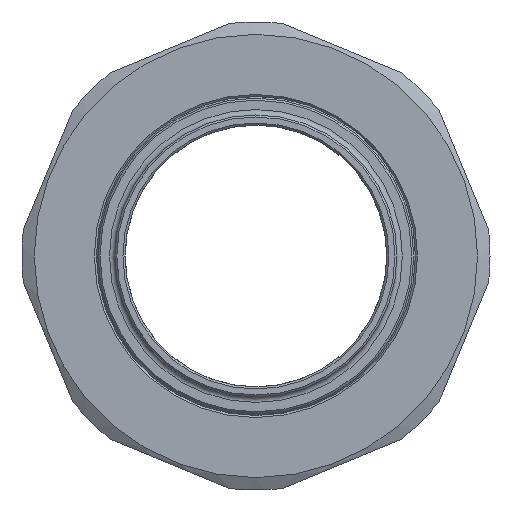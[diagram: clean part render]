
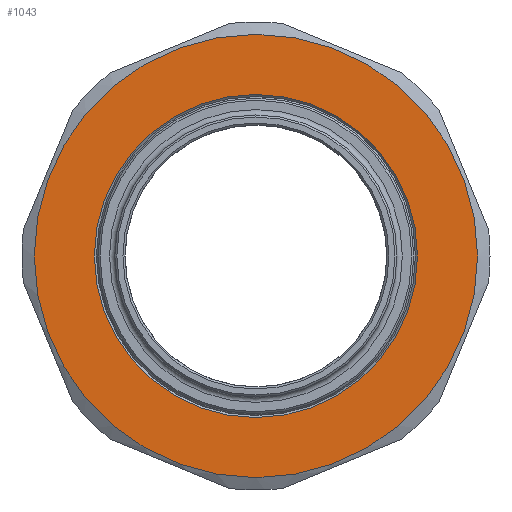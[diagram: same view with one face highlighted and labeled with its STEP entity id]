
A CAD part, left-side view. The second image highlights one B-rep face of the part: STEP entity #1043.
In plain terms, the highlighted planar face has unit normal (-1, 0, 0).
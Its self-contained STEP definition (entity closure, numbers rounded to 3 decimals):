
#63=FACE_BOUND('',#179,.T.);
#72=PLANE('',#1185);
#114=FACE_OUTER_BOUND('',#178,.T.);
#178=EDGE_LOOP('',(#718));
#179=EDGE_LOOP('',(#719));
#353=CIRCLE('',#1184,24.05);
#354=CIRCLE('',#1186,33.);
#440=VERTEX_POINT('',#1720);
#441=VERTEX_POINT('',#1724);
#548=EDGE_CURVE('',#440,#440,#353,.T.);
#550=EDGE_CURVE('',#441,#441,#354,.T.);
#718=ORIENTED_EDGE('',*,*,#550,.T.);
#719=ORIENTED_EDGE('',*,*,#548,.F.);
#1043=ADVANCED_FACE('',(#114,#63),#72,.T.);
#1184=AXIS2_PLACEMENT_3D('',#1721,#1357,#1358);
#1185=AXIS2_PLACEMENT_3D('',#1723,#1360,#1361);
#1186=AXIS2_PLACEMENT_3D('',#1725,#1362,#1363);
#1357=DIRECTION('center_axis',(-1.,0.,0.));
#1358=DIRECTION('ref_axis',(0.,1.,0.));
#1360=DIRECTION('center_axis',(-1.,0.,0.));
#1361=DIRECTION('ref_axis',(0.,0.,1.));
#1362=DIRECTION('center_axis',(-1.,0.,0.));
#1363=DIRECTION('ref_axis',(0.,1.,0.));
#1720=CARTESIAN_POINT('',(-23.,-24.05,0.));
#1721=CARTESIAN_POINT('Origin',(-23.,0.,0.));
#1723=CARTESIAN_POINT('Origin',(-23.,0.,0.));
#1724=CARTESIAN_POINT('',(-23.,-33.,0.));
#1725=CARTESIAN_POINT('Origin',(-23.,0.,0.));
